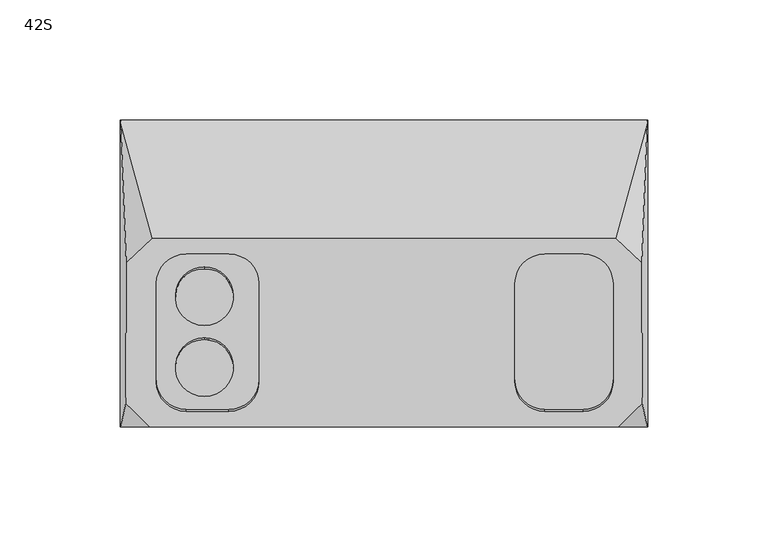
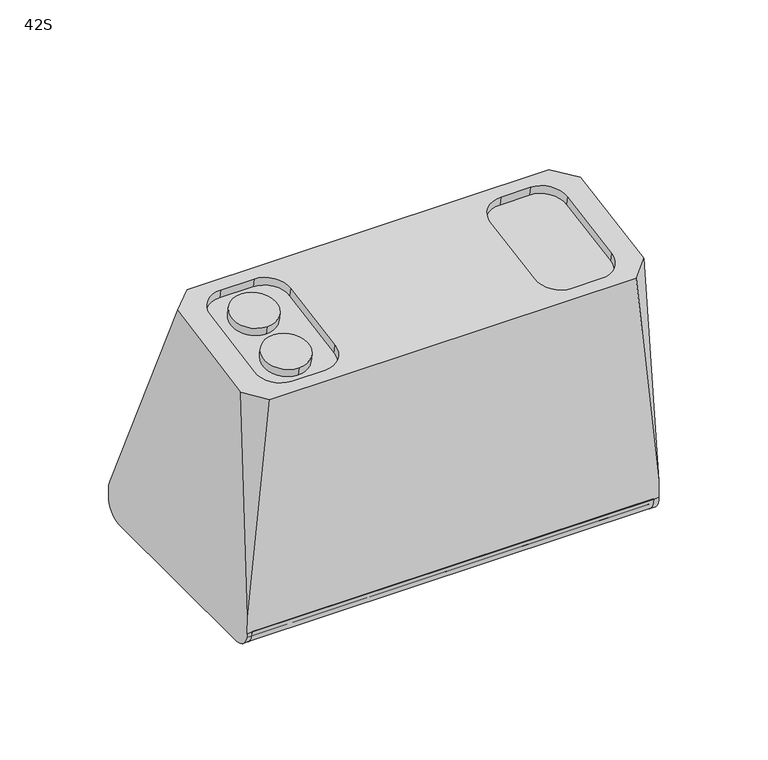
"""IFC4 building model written with IfcOpenShell, lengths in millimetres: proxy geometry, d&b xS-Series 42S Point Source : 42S."""

from ifc_helpers import new_model, si_unit, point, frame, frame_2d, origin, place, context, project, spatial, polyline, circle_curve, ellipse_curve, trimmed, segment, composite_curve, outline, extrude, source, transform, mapped, element, save
from ifc_brep_helpers import plane_surface, cylinder_surface, revolved_surface, advanced_brep


def proxy_42s_3eda13a3(model_context):
    return source(origin(), model_context, "Body", "SolidModel", [
        extrude(outline(composite_curve([segment(trimmed(circle_curve(frame_2d((54.0, -65.9650952)), 8.0), [point((54.0, -73.9650952))], [point((62.0, -65.9650952))], True, "CARTESIAN"), True, "CONTINUOUS"), segment(polyline([(62.0, -65.9650952), (64.0349048, -65.9650952)]), True, "CONTINUOUS"), segment(trimmed(circle_curve(frame_2d((54.0, -65.9650952)), 10.0349048), [point((64.0349048, -65.9650952))], [point((54.0, -76.0))], False, "CARTESIAN"), True, "CONTINUOUS"), segment(polyline([(54.0, -76.0), (-54.0, -76.0)]), True, "CONTINUOUS"), segment(trimmed(circle_curve(frame_2d((-54.0, -66.0)), 10.0), [point((-54.0, -76.0))], [point((-64.0, -66.0))], False, "CARTESIAN"), True, "CONTINUOUS"), segment(polyline([(-64.0, -66.0), (-62.0435242, -66.0)]), True, "CONTINUOUS"), segment(trimmed(circle_curve(frame_2d((-54.078429, -66.0)), 7.9650952), [point((-62.0435242, -66.0))], [point((-54.078429, -73.9650952))], True, "CARTESIAN"), True, "CONTINUOUS"), segment(polyline([(-54.078429, -73.9650952), (54.0, -73.9650952)]), True, "CONTINUOUS")], self_intersect=False)), frame((-107.0, 0.0, 0.0), z_axis=(1.0, 0.0, 0.0), x_axis=(0.0, 1.0, 0.0)), (0.0, 0.0, 1.0), 214.0),
        extrude(outline(polyline([(73.6666667, -9.0), (90.0, -9.0), (90.0, -25.3333333), (73.6666667, -25.3333333), (73.6666667, -9.0)])), frame((0.0, 0.0, -76.0), z_axis=(0.0, 0.0, 1.0), x_axis=(1.0, 0.0, 0.0)), (0.0, 0.0, 1.0), 5.0),
        extrude(outline(polyline([(55.0, -9.0), (71.3333333, -9.0), (71.3333333, -25.3333333), (55.0, -25.3333333), (55.0, -9.0)])), frame((0.0, 0.0, -76.0), z_axis=(0.0, 0.0, 1.0), x_axis=(1.0, 0.0, 0.0)), (0.0, 0.0, 1.0), 5.0),
        extrude(outline(polyline([(55.0, -27.6666667), (71.3333333, -27.6666667), (71.3333333, -44.0), (55.0, -44.0), (55.0, -27.6666667)])), frame((0.0, 0.0, -76.0), z_axis=(0.0, 0.0, 1.0), x_axis=(1.0, 0.0, 0.0)), (0.0, 0.0, 1.0), 5.0),
        extrude(outline(composite_curve([segment(trimmed(circle_curve(frame_2d((81.8333333, -35.8333333)), 8.1666667), [point((73.6666667, -35.8333333))], [point((90.0, -35.8333333))], False, "CARTESIAN"), True, "CONTINUOUS"), segment(trimmed(circle_curve(frame_2d((81.8333333, -35.8333333)), 8.1666667), [point((90.0, -35.8333333))], [point((73.6666667, -35.8333333))], False, "CARTESIAN"), True, "CONTINUOUS")], self_intersect=False)), frame((0.0, 0.0, -76.0), z_axis=(0.0, 0.0, 1.0), x_axis=(1.0, 0.0, 0.0)), (0.0, 0.0, 1.0), 5.0),
        advanced_brep(
        [(107.0, -64.0, -66.0), (-107.0, -64.0, -66.0), (-107.0, -62.0435242, -66.0), (107.0, -62.0435242, -66.0), (-107.0, -54.078429, -73.9650952), (107.0, -54.078429, -73.9650952), (-107.0, 54.0, -73.9650952), (107.0, 54.0, -73.9650952), (-107.0, 62.0, -65.9650952), (107.0, 62.0, -65.9650952), (-107.0, 64.0, -65.9650952), (107.0, 64.0, -65.9650952), (-109.8273531, 64.0, -65.9650952), (-109.7253263, 64.0, -60.0349048), (109.7253263, 64.0, -60.0349048), (109.8273531, 64.0, -65.9650952), (109.8279536, -64.0, -66.0), (109.6679034, -64.0, -56.6972655), (97.8946622, -64.0, 61.6262346), (-97.8946622, -64.0, 61.6262346), (-109.6679034, -64.0, -56.6972655), (-109.8279536, -64.0, -66.0), (-96.5142171, 14.6819894, 75.4999923), (96.5142171, 14.6819894, 75.4999923), (109.6679034, 62.7855103, -56.6972655), (-109.6679034, 62.7855103, -56.6972655), (107.602215, -54.1190905, 63.3685056), (-107.602215, -54.1190905, 63.3685056), (-107.4240938, 4.5961827, 73.7215924), (107.4240938, 4.5961827, 73.7215924), (109.9986507, -54.078429, -75.921571), (109.9993995, 54.0, -75.9650952), (-109.9993995, 54.0, -75.9650952), (-109.9993995, -54.078429, -75.9650952), (107.0, 54.0, -75.9650952), (107.0, -54.078429, -75.9650952), (95.447753, -45.1738745, 64.9457885), (82.947753, -57.4839714, 62.7751863), (67.052247, -57.4839714, 62.7751863), (54.552247, -45.1738745, 64.9457885), (54.552247, -4.2201563, 72.167034), (67.052247, 8.0899406, 74.3376362), (82.947753, 8.0899406, 74.3376362), (95.447753, -4.2201563, 72.167034), (-52.1, -45.1738745, 64.9457885), (-64.6, -57.4839714, 62.7751863), (-82.4, -57.4839714, 62.7751863), (-94.9, -45.1738745, 64.9457885), (-94.9, -4.2201563, 72.167034), (-82.4, 8.0899406, 74.3376362), (-64.6, 8.0899406, 74.3376362), (-52.1, -4.2201563, 72.167034), (95.447753, -44.3056336, 60.0217497), (95.447753, -3.3519154, 67.2429952), (82.947753, 8.9581815, 69.4135974), (67.052247, 8.9581815, 69.4135974), (54.552247, -3.3519154, 67.2429952), (54.552247, -44.3056336, 60.0217497), (67.052247, -56.6157306, 57.8511475), (82.947753, -56.6157306, 57.8511475), (-52.1, -44.3056336, 60.0217497), (-52.1, -3.3519154, 67.2429952), (-64.6, 8.9581815, 69.4135974), (-82.4, 8.9581815, 69.4135974), (-94.9, -3.3519154, 67.2429952), (-94.9, -44.3056336, 60.0217497), (-82.4, -56.6157306, 57.8511475), (-64.6, -56.6157306, 57.8511475), (-107.0, -54.078429, -75.921571), (-107.0, 54.0, -75.9650952)],
        [
            (0, 1),
            (1, 2),
            (2, 3),
            (3, 0),
            (2, 4, circle_curve(frame((-107.0, -54.078429, -66.0), z_axis=(1.0, 0.0, 0.0), x_axis=(0.0, -1.0, 0.0)), 7.9650952)),
            (4, 5),
            (5, 3, circle_curve(frame((107.0, -54.078429, -66.0), z_axis=(-1.0, 0.0, 0.0), x_axis=(0.0, -1.0, 0.0)), 7.9650952)),
            (4, 6),
            (6, 7),
            (7, 5),
            (6, 8, circle_curve(frame((-107.0, 54.0, -65.9650952), z_axis=(1.0, 0.0, 0.0), x_axis=(0.0, -1.0, 0.0)), 8.0)),
            (8, 9),
            (9, 7, circle_curve(frame((107.0, 54.0, -65.9650952), z_axis=(-1.0, 0.0, 0.0), x_axis=(0.0, -1.0, 0.0)), 8.0)),
            (8, 10),
            (10, 11),
            (11, 9),
            (10, 12),
            (12, 13),
            (13, 14),
            (14, 15),
            (15, 11),
            (0, 16),
            (16, 17),
            (17, 18),
            (18, 19),
            (19, 20),
            (20, 21),
            (21, 1),
            (22, 23),
            (23, 24),
            (24, 14),
            (13, 25),
            (25, 22),
            (26, 18),
            (17, 26),
            (19, 27),
            (27, 20),
            (28, 22),
            (25, 28),
            (23, 29),
            (29, 24),
            (29, 26),
            (16, 30, ellipse_curve(frame((109.8279536, -54.078429, -66.0), z_axis=(0.9998520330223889, 0.0, 0.017202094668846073), x_axis=(0.01720209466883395, 0.0, -0.999852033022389)), 9.9230392, 9.921571)),
            (30, 31),
            (31, 15, ellipse_curve(frame((109.8273531, 54.0, -65.9650952), z_axis=(0.9998520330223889, 0.0, 0.017202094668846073), x_axis=(0.01720209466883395, 0.0, -0.999852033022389)), 10.0014799, 10.0)),
            (12, 32, ellipse_curve(frame((-109.8273531, 54.0, -65.9650952), z_axis=(-0.999852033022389, 0.0, 0.017202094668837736), x_axis=(0.017202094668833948, 0.0, 0.999852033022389)), 10.0014799, 10.0)),
            (32, 33),
            (33, 21, ellipse_curve(frame((-109.8279536, -54.078429, -66.0), z_axis=(-0.999852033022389, 0.0, 0.017202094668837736), x_axis=(0.017202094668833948, 0.0, 0.999852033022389)), 9.9230392, 9.921571)),
            (27, 28),
            (11, 34, circle_curve(frame((107.0, 54.0, -65.9650952), z_axis=(-1.0, 0.0, 0.0), x_axis=(0.0, -1.0, 0.0)), 10.0)),
            (34, 35),
            (35, 0, circle_curve(frame((107.0, -54.078429, -66.0), z_axis=(-1.0, 0.0, 0.0), x_axis=(0.0, -1.0, 0.0)), 9.921571)),
            (35, 30),
            (34, 31),
            (36, 37, circle_curve(frame((82.947753, -45.1738745, 64.9457885), z_axis=(0.0, 0.1736481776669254, -0.984807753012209), x_axis=(0.0, 0.984807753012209, 0.1736481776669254)), 12.5)),
            (37, 38),
            (38, 39, circle_curve(frame((67.052247, -45.1738745, 64.9457885), z_axis=(0.0, 0.1736481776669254, -0.984807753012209), x_axis=(0.0, 0.984807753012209, 0.1736481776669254)), 12.5)),
            (39, 40),
            (40, 41, circle_curve(frame((67.052247, -4.2201563, 72.167034), z_axis=(0.0, 0.1736481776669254, -0.984807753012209), x_axis=(0.0, 0.984807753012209, 0.1736481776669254)), 12.5)),
            (41, 42),
            (42, 43, circle_curve(frame((82.947753, -4.2201563, 72.167034), z_axis=(0.0, 0.1736481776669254, -0.984807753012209), x_axis=(0.0, 0.984807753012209, 0.1736481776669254)), 12.5)),
            (43, 36),
            (44, 45, circle_curve(frame((-64.6, -45.1738745, 64.9457885), z_axis=(0.0, 0.1736481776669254, -0.984807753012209), x_axis=(0.0, 0.984807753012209, 0.1736481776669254)), 12.5)),
            (45, 46),
            (46, 47, circle_curve(frame((-82.4, -45.1738745, 64.9457885), z_axis=(0.0, 0.1736481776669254, -0.984807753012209), x_axis=(0.0, 0.984807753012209, 0.1736481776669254)), 12.5)),
            (47, 48),
            (48, 49, circle_curve(frame((-82.4, -4.2201563, 72.167034), z_axis=(0.0, 0.1736481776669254, -0.984807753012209), x_axis=(0.0, 0.984807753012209, 0.1736481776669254)), 12.5)),
            (49, 50),
            (50, 51, circle_curve(frame((-64.6, -4.2201563, 72.167034), z_axis=(0.0, 0.1736481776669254, -0.984807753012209), x_axis=(0.0, 0.984807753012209, 0.1736481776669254)), 12.5)),
            (51, 44),
            (52, 53),
            (53, 54, circle_curve(frame((82.947753, -3.3519154, 67.2429952), z_axis=(0.0, -0.1736481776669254, 0.984807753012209), x_axis=(0.0, 0.984807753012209, 0.1736481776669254)), 12.5)),
            (54, 55),
            (55, 56, circle_curve(frame((67.052247, -3.3519154, 67.2429952), z_axis=(0.0, -0.1736481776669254, 0.984807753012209), x_axis=(0.0, 0.984807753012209, 0.1736481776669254)), 12.5)),
            (56, 57),
            (57, 58, circle_curve(frame((67.052247, -44.3056336, 60.0217497), z_axis=(0.0, -0.1736481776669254, 0.984807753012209), x_axis=(0.0, 0.984807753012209, 0.1736481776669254)), 12.5)),
            (58, 59),
            (59, 52, circle_curve(frame((82.947753, -44.3056336, 60.0217497), z_axis=(0.0, -0.1736481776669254, 0.984807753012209), x_axis=(0.0, 0.984807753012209, 0.1736481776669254)), 12.5)),
            (60, 61),
            (61, 62, circle_curve(frame((-64.6, -3.3519154, 67.2429952), z_axis=(0.0, -0.1736481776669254, 0.984807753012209), x_axis=(0.0, 0.984807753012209, 0.1736481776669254)), 12.5)),
            (62, 63),
            (63, 64, circle_curve(frame((-82.4, -3.3519154, 67.2429952), z_axis=(0.0, -0.1736481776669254, 0.984807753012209), x_axis=(0.0, 0.984807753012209, 0.1736481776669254)), 12.5)),
            (64, 65),
            (65, 66, circle_curve(frame((-82.4, -44.3056336, 60.0217497), z_axis=(0.0, -0.1736481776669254, 0.984807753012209), x_axis=(0.0, 0.984807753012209, 0.1736481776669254)), 12.5)),
            (66, 67),
            (67, 60, circle_curve(frame((-64.6, -44.3056336, 60.0217497), z_axis=(0.0, -0.1736481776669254, 0.984807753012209), x_axis=(0.0, 0.984807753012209, 0.1736481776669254)), 12.5)),
            (1, 68, circle_curve(frame((-107.0, -54.078429, -66.0), z_axis=(1.0, 0.0, 0.0), x_axis=(0.0, -1.0, 0.0)), 9.921571)),
            (68, 69),
            (69, 10, circle_curve(frame((-107.0, 54.0, -65.9650952), z_axis=(1.0, 0.0, 0.0), x_axis=(0.0, -1.0, 0.0)), 10.0)),
            (33, 68),
            (32, 69),
            (59, 37),
            (36, 52),
            (58, 38),
            (57, 39),
            (56, 40),
            (55, 41),
            (54, 42),
            (53, 43),
            (67, 45),
            (44, 60),
            (66, 46),
            (65, 47),
            (64, 48),
            (63, 49),
            (62, 50),
            (61, 51),
        ],
        [
            plane_surface(frame((107.0, -64.0, -66.0), z_axis=(0.0, 0.0, -1.0), x_axis=(-1.0, 0.0, 0.0))),
            cylinder_surface(frame((-107.0, -54.078429, -66.0), z_axis=(1.0, 0.0, 0.0), x_axis=(0.0, -1.0, 0.0)), 7.9650952),
            plane_surface(frame((107.0, -54.078429, -73.9650952), z_axis=(0.0, 0.0, -1.0), x_axis=(-1.0, 0.0, 0.0))),
            cylinder_surface(frame((-107.0, 54.0, -65.9650952), z_axis=(1.0, 0.0, 0.0), x_axis=(0.0, -1.0, 0.0)), 8.0),
            plane_surface(frame((107.0, 62.0, -65.9650952), z_axis=(0.0, 0.0, -1.0), x_axis=(-1.0, 0.0, 0.0))),
            plane_surface(frame((107.0, 64.0, -65.9650952), z_axis=(0.0, 1.0, 0.0), x_axis=(-1.0, 0.0, 0.0))),
            plane_surface(frame((107.0, -64.0, -60.0349048), z_axis=(0.0, -1.0, 0.0), x_axis=(-1.0, 0.0, 0.0))),
            plane_surface(frame((0.0, 14.5000481, 76.0), z_axis=(0.0, 0.9397208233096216, 0.34194264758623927), x_axis=(1.0, 0.0, 0.0))),
            plane_surface(frame((103.232233, -57.232233, 76.0), z_axis=(0.7053631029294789, -0.7053631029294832, 0.07018394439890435), x_axis=(-0.7071067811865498, -0.7071067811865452, 0.0))),
            plane_surface(frame((-103.232233, -57.232233, 76.0), z_axis=(-0.705363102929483, -0.7053631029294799, 0.07018394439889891), x_axis=(-0.7071067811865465, 0.7071067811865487, 0.0))),
            plane_surface(frame((-103.232233, 7.7322812, 76.0), z_axis=(-0.6719558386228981, 0.6719558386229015, 0.31136907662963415), x_axis=(0.7071067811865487, 0.7071067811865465, 0.0))),
            plane_surface(frame((103.232233, 7.7322812, 76.0), z_axis=(0.6719558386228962, 0.6719558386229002, 0.31136907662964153), x_axis=(0.7071067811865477, -0.7071067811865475, 0.0))),
            plane_surface(frame((110.3665166, 100.0, -97.3033587), z_axis=(0.9998520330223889, 0.0, 0.017202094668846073), x_axis=(0.0, -1.0, 0.0))),
            plane_surface(frame((-107.2474477, 100.0, 83.9889493), z_axis=(-0.999852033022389, 0.0, 0.017202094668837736), x_axis=(0.0, -1.0, 0.0))),
            plane_surface(frame((107.0, -64.0, -66.0), z_axis=(-1.0, 0.0, 0.0), x_axis=(0.0, 0.0, 1.0))),
            cylinder_surface(frame((107.0, -54.078429, -66.0), z_axis=(1.0, 0.0, 0.0), x_axis=(0.0, -1.0, 0.0)), 9.921571),
            plane_surface(frame((112.6426388, -54.078429, -75.9650952), z_axis=(0.0, 0.0, -1.0), x_axis=(-1.0, 0.0, 0.0))),
            cylinder_surface(frame((107.0, 54.0, -65.9650952), z_axis=(1.0, 0.0, 0.0), x_axis=(0.0, -1.0, 0.0)), 10.0),
            plane_surface(frame((250.0, -81.2585403, 58.5830883), z_axis=(0.0, -0.17364817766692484, 0.9848077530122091), x_axis=(-1.0, 0.0, 0.0))),
            plane_surface(frame((82.947753, -31.9955367, 62.192352), z_axis=(0.0, -0.1736481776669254, 0.984807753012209), x_axis=(1.0, 0.0, 0.0))),
            plane_surface(frame((-107.0, -64.0, -66.0), z_axis=(1.0, 0.0, 0.0), x_axis=(0.0, 0.0, -1.0))),
            cylinder_surface(frame((-113.0, -54.078429, -66.0), z_axis=(1.0, 0.0, 0.0), x_axis=(0.0, -1.0, 0.0)), 9.921571),
            plane_surface(frame((-107.0, -54.078429, -75.9650952), z_axis=(0.0, 0.0, -1.0), x_axis=(-1.0, 0.0, 0.0))),
            cylinder_surface(frame((-113.0, 54.0, -65.9650952), z_axis=(1.0, 0.0, 0.0), x_axis=(0.0, -1.0, 0.0)), 10.0),
            revolved_surface(polyline([(82.947753, -31.99553669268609, 62.192351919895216), (82.947753, -32.863777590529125, 67.11639073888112)]), (82.947753, -45.1738745, 64.9457885), (0.0, 0.1736481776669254, -0.984807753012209)),
            plane_surface(frame((82.947753, -56.6157306, 57.8511475), z_axis=(0.0, 0.9848077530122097, 0.1736481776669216), x_axis=(0.0, -0.1736481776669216, 0.9848077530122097))),
            revolved_surface(polyline([(67.052247, -31.99553669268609, 62.192351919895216), (67.052247, -32.863777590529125, 67.11639073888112)]), (67.052247, -45.1738745, 64.9457885), (0.0, 0.1736481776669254, -0.984807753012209)),
            plane_surface(frame((54.552247, -44.3056336, 60.0217497), z_axis=(1.0000000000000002, 0.0, 0.0), x_axis=(0.0, -0.1736481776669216, 0.9848077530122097))),
            revolved_surface(polyline([(67.052247, 8.958181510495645, 69.41359740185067), (67.052247, 8.089940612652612, 74.33763622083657)]), (67.052247, -4.2201563, 72.167034), (0.0, 0.1736481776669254, -0.984807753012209)),
            plane_surface(frame((67.052247, 8.9581815, 69.4135974), z_axis=(0.0, -0.9848077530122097, -0.1736481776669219), x_axis=(0.0, -0.1736481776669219, 0.9848077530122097))),
            revolved_surface(polyline([(82.947753, 8.958181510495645, 69.41359740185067), (82.947753, 8.089940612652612, 74.33763622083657)]), (82.947753, -4.2201563, 72.167034), (0.0, 0.1736481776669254, -0.984807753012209)),
            plane_surface(frame((95.447753, -3.3519154, 67.2429952), z_axis=(-1.0000000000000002, 0.0, 0.0), x_axis=(0.0, -0.1736481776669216, 0.9848077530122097))),
            revolved_surface(polyline([(-64.6, -31.99553669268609, 62.192351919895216), (-64.6, -32.863777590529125, 67.11639073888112)]), (-64.6, -45.1738745, 64.9457885), (0.0, 0.1736481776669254, -0.984807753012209)),
            plane_surface(frame((-64.6, -56.6157306, 57.8511475), z_axis=(0.0, 0.9848077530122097, 0.1736481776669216), x_axis=(0.0, -0.1736481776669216, 0.9848077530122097))),
            revolved_surface(polyline([(-82.4, -31.99553669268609, 62.192351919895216), (-82.4, -32.863777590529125, 67.11639073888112)]), (-82.4, -45.1738745, 64.9457885), (0.0, 0.1736481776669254, -0.984807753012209)),
            plane_surface(frame((-94.9, -44.3056336, 60.0217497), z_axis=(1.0000000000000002, 0.0, 0.0), x_axis=(0.0, -0.1736481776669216, 0.9848077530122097))),
            revolved_surface(polyline([(-82.4, 8.958181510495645, 69.41359740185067), (-82.4, 8.089940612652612, 74.33763622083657)]), (-82.4, -4.2201563, 72.167034), (0.0, 0.1736481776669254, -0.984807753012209)),
            plane_surface(frame((-82.4, 8.9581815, 69.4135974), z_axis=(0.0, -0.9848077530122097, -0.1736481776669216), x_axis=(0.0, -0.1736481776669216, 0.9848077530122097))),
            revolved_surface(polyline([(-64.6, 8.958181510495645, 69.41359740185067), (-64.6, 8.089940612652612, 74.33763622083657)]), (-64.6, -4.2201563, 72.167034), (0.0, 0.1736481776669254, -0.984807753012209)),
            plane_surface(frame((-52.1, -3.3519154, 67.2429952), z_axis=(-1.0000000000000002, 0.0, 0.0), x_axis=(0.0, -0.1736481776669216, 0.9848077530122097))),
        ],
        [
            (0, [[1, 2, 3, 4]]),
            (1, [[-3, 5, 6, 7]]),
            (2, [[-6, 8, 9, 10]]),
            (3, [[-9, 11, 12, 13]]),
            (4, [[-12, 14, 15, 16]]),
            (5, [[-15, 17, 18, 19, 20, 21]]),
            (6, [[-1, 22, 23, 24, 25, 26, 27, 28]]),
            (7, [[29, 30, 31, -19, 32, 33]]),
            (8, [[34, -24, 35]]),
            (9, [[-26, 36, 37]]),
            (10, [[38, -33, 39]]),
            (11, [[-30, 40, 41]]),
            (12, [[-20, -31, -41, 42, -35, -23, 43, 44, 45]]),
            (13, [[-18, 46, 47, 48, -27, -37, 49, -39, -32]]),
            (14, [[50, 51, 52, -4, -7, -10, -13, -16]]),
            (15, [[-52, 53, -43, -22]]),
            (16, [[-51, 54, -44, -53]]),
            (17, [[-50, -21, -45, -54]]),
            (18, [[-25, -34, -42, -40, -29, -38, -49, -36], [55, 56, 57, 58, 59, 60, 61, 62], [63, 64, 65, 66, 67, 68, 69, 70]]),
            (19, [[71, 72, 73, 74, 75, 76, 77, 78]]),
            (19, [[79, 80, 81, 82, 83, 84, 85, 86]]),
            (20, [[87, 88, 89, -14, -11, -8, -5, -2]]),
            (21, [[-87, -28, -48, 90]]),
            (22, [[-88, -90, -47, 91]]),
            (23, [[-89, -91, -46, -17]]),
            (24, [[-78, 92, -55, 93]]),
            (25, [[-77, 94, -56, -92]]),
            (26, [[-76, 95, -57, -94]]),
            (27, [[-75, 96, -58, -95]]),
            (28, [[-74, 97, -59, -96]]),
            (29, [[-73, 98, -60, -97]]),
            (30, [[-72, 99, -61, -98]]),
            (31, [[-71, -93, -62, -99]]),
            (32, [[-86, 100, -63, 101]]),
            (33, [[-85, 102, -64, -100]]),
            (34, [[-84, 103, -65, -102]]),
            (35, [[-83, 104, -66, -103]]),
            (36, [[-82, 105, -67, -104]]),
            (37, [[-81, 106, -68, -105]]),
            (38, [[-80, 107, -69, -106]]),
            (39, [[-79, -101, -70, -107]]),
        ],
    ),
        extrude(outline(composite_curve([segment(trimmed(circle_curve(frame_2d((0.0, -12.0)), 12.0), [point((0.0, -24.0))], [point((0.0, 0.0))], False, "CARTESIAN"), True, "CONTINUOUS"), segment(trimmed(circle_curve(frame_2d((0.0, -12.0)), 12.0), [point((0.0, 0.0))], [point((0.0, -24.0))], False, "CARTESIAN"), True, "CONTINUOUS")], self_intersect=False)), frame((-74.8471384, -50.3782035, 58.9509918), z_axis=(0.0, -0.17364817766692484, 0.9848077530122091), x_axis=(-1.0, 0.0, 0.0)), (0.0, 0.0, 1.0), 5.0),
        extrude(outline(composite_curve([segment(trimmed(circle_curve(frame_2d((0.0, -42.0)), 12.0), [point((0.0, -54.0))], [point((0.0, -30.0))], False, "CARTESIAN"), True, "CONTINUOUS"), segment(trimmed(circle_curve(frame_2d((0.0, -42.0)), 12.0), [point((0.0, -30.0))], [point((0.0, -54.0))], False, "CARTESIAN"), True, "CONTINUOUS")], self_intersect=False)), frame((-74.8471384, -50.3782035, 58.9509918), z_axis=(0.0, -0.17364817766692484, 0.9848077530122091), x_axis=(-1.0, 0.0, 0.0)), (0.0, 0.0, 1.0), 5.0),
    ])


if __name__ == "__main__":
    model = new_model("IFC4")
    model_context = context("Model", 3, world=origin())
    ifc_project = project(units=[si_unit("LENGTHUNIT", "METRE", prefix="MILLI")], contexts=[model_context])
    site = spatial("IfcSite", under=ifc_project)
    building = spatial("IfcBuilding", under=site)
    placement = place(None, origin())
    proxy_42s_shape = proxy_42s_3eda13a3(model_context)
    element("IfcBuildingElementProxy", 1, Name="d&b xS-Series 42S Point Source : 42S", ObjectType="d&b xS-Series 42S Point Source : 42S", at=placement, inside=building, context=model_context, shape_type="MappedRepresentation", body=[
        mapped(proxy_42s_shape, transform((0.0, 0.0, 0.0), x_axis=(1.0, 0.0, 0.0), y_axis=(0.0, 1.0, 0.0), z_axis=(0.0, 0.0, 1.0))),
    ])
    save(model, "model.ifc")
